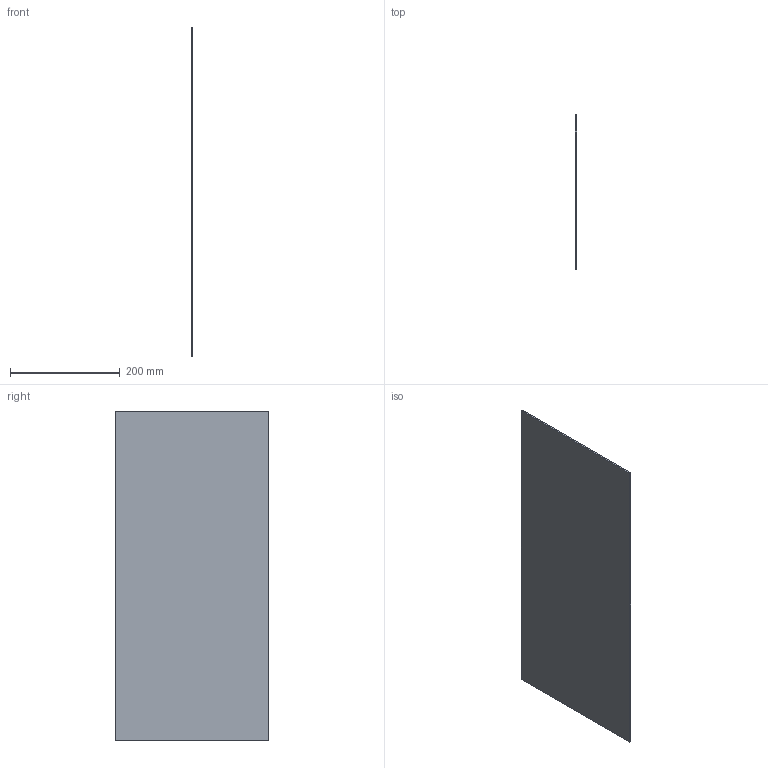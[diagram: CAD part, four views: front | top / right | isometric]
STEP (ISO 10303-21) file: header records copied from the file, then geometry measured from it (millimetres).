
FILE_DESCRIPTION(('Open CASCADE Model'),'2;1');
FILE_NAME('Open CASCADE Shape Model','2026-10-16T19:20:08',('Author'),( 'Open CASCADE'),'Open CASCADE STEP processor 7.8','Open CASCADE 7.8' ,'Unknown');
FILE_SCHEMA(('AUTOMOTIVE_DESIGN { 1 0 10303 214 1 1 1 1 }'));
Length unit declared in the file: millimetre
Products named in the file (1): Open CASCADE STEP translator 7.8 3
Bounding box: 3 x 280 x 600 mm (x, y, z)
Volume: 504000 mm3; surface area: 341280 mm2
Topology: 1 solids, 1 shells, 6 faces, 12 edges, 8 vertices
Faces by surface type: plane 6
Entity records: 322 total; most frequent: CARTESIAN_POINT 51, DIRECTION 50, LINE 36, VECTOR 36, ORIENTED_EDGE 24, PCURVE 24, DEFINITIONAL_REPRESENTATION 24, EDGE_CURVE 12
